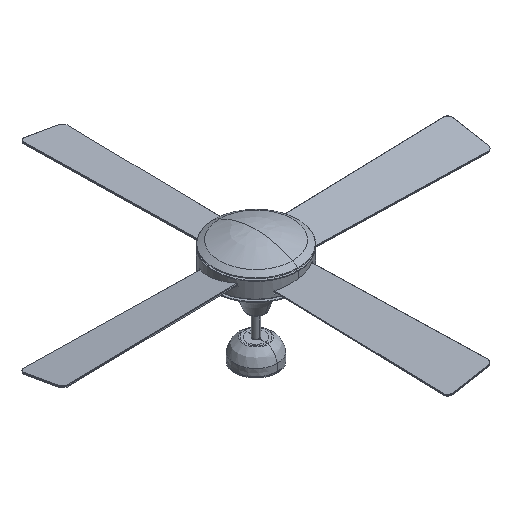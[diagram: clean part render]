
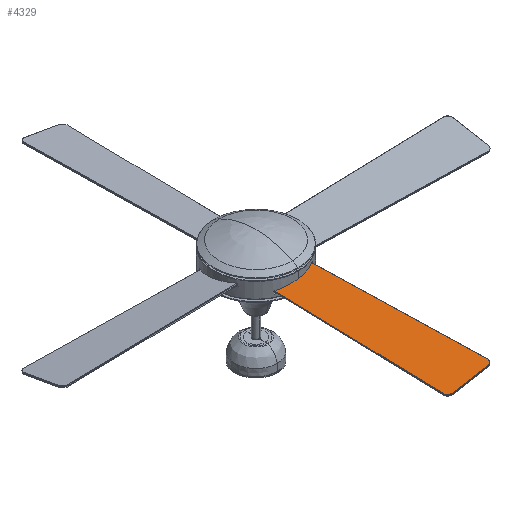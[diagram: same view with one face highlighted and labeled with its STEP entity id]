
A CAD part, isometric view. The second image highlights one B-rep face of the part: STEP entity #4329.
In plain terms, the highlighted planar face has unit normal (-0.174, 0, 0.985).
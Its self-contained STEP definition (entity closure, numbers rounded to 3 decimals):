
#283=PLANE('',#4656);
#461=FACE_OUTER_BOUND('',#725,.T.);
#725=EDGE_LOOP('',(#3146,#3147,#3148,#3149,#3150,#3151,#3152,#3153));
#1030=LINE('',#6542,#1343);
#1034=LINE('',#6554,#1347);
#1038=LINE('',#6566,#1351);
#1042=LINE('',#6577,#1355);
#1343=VECTOR('',#5294,304.8);
#1347=VECTOR('',#5306,304.8);
#1351=VECTOR('',#5318,304.8);
#1355=VECTOR('',#5330,304.8);
#1614=CIRCLE('',#4640,15.62);
#1616=CIRCLE('',#4644,15.62);
#1618=CIRCLE('',#4648,8.198);
#1620=CIRCLE('',#4652,8.198);
#1856=VERTEX_POINT('',#6532);
#1857=VERTEX_POINT('',#6533);
#1860=VERTEX_POINT('',#6541);
#1862=VERTEX_POINT('',#6547);
#1864=VERTEX_POINT('',#6553);
#1866=VERTEX_POINT('',#6559);
#1868=VERTEX_POINT('',#6565);
#1870=VERTEX_POINT('',#6571);
#2321=EDGE_CURVE('',#1856,#1857,#1614,.T.);
#2325=EDGE_CURVE('',#1860,#1856,#1030,.T.);
#2328=EDGE_CURVE('',#1862,#1860,#1616,.T.);
#2331=EDGE_CURVE('',#1864,#1862,#1034,.T.);
#2334=EDGE_CURVE('',#1866,#1864,#1618,.T.);
#2337=EDGE_CURVE('',#1868,#1866,#1038,.T.);
#2340=EDGE_CURVE('',#1870,#1868,#1620,.T.);
#2343=EDGE_CURVE('',#1857,#1870,#1042,.T.);
#3146=ORIENTED_EDGE('',*,*,#2343,.T.);
#3147=ORIENTED_EDGE('',*,*,#2340,.T.);
#3148=ORIENTED_EDGE('',*,*,#2337,.T.);
#3149=ORIENTED_EDGE('',*,*,#2334,.T.);
#3150=ORIENTED_EDGE('',*,*,#2331,.T.);
#3151=ORIENTED_EDGE('',*,*,#2328,.T.);
#3152=ORIENTED_EDGE('',*,*,#2325,.T.);
#3153=ORIENTED_EDGE('',*,*,#2321,.T.);
#4329=ADVANCED_FACE('',(#461),#283,.T.);
#4640=AXIS2_PLACEMENT_3D('',#6534,#5286,#5287);
#4644=AXIS2_PLACEMENT_3D('',#6548,#5299,#5300);
#4648=AXIS2_PLACEMENT_3D('',#6560,#5311,#5312);
#4652=AXIS2_PLACEMENT_3D('',#6572,#5323,#5324);
#4656=AXIS2_PLACEMENT_3D('',#6580,#5334,#5335);
#5286=DIRECTION('center_axis',(-0.174,0.,0.985));
#5287=DIRECTION('ref_axis',(-0.985,0.,-0.174));
#5294=DIRECTION('',(0.985,0.,0.174));
#5299=DIRECTION('center_axis',(-0.174,0.,0.985));
#5300=DIRECTION('ref_axis',(0.985,0.,0.174));
#5306=DIRECTION('',(-0.023,-1.,-0.004));
#5311=DIRECTION('center_axis',(-0.174,0.,0.985));
#5312=DIRECTION('ref_axis',(0.985,0.,0.174));
#5318=DIRECTION('',(-0.985,0.,-0.174));
#5323=DIRECTION('center_axis',(-0.174,0.,0.985));
#5324=DIRECTION('ref_axis',(-0.985,0.,-0.174));
#5330=DIRECTION('',(-0.023,1.,-0.004));
#5334=DIRECTION('center_axis',(-0.174,0.,0.985));
#5335=DIRECTION('ref_axis',(-0.023,1.,-0.004));
#6532=CARTESIAN_POINT('',(52.339,-659.993,290.505));
#6533=CARTESIAN_POINT('',(67.717,-644.002,293.216));
#6534=CARTESIAN_POINT('Origin',(52.339,-644.373,290.505));
#6541=CARTESIAN_POINT('',(-53.207,-659.993,271.894));
#6542=CARTESIAN_POINT('',(-53.207,-659.993,271.894));
#6547=CARTESIAN_POINT('',(-68.585,-644.009,269.182));
#6548=CARTESIAN_POINT('Origin',(-53.207,-644.373,271.894));
#6553=CARTESIAN_POINT('',(-56.357,-111.,271.339));
#6554=CARTESIAN_POINT('',(-56.357,-111.,271.339));
#6559=CARTESIAN_POINT('',(-48.285,-102.993,272.762));
#6560=CARTESIAN_POINT('Origin',(-48.285,-111.191,272.762));
#6565=CARTESIAN_POINT('',(47.186,-102.993,289.596));
#6566=CARTESIAN_POINT('',(47.186,-102.993,289.596));
#6571=CARTESIAN_POINT('',(55.258,-110.997,291.019));
#6572=CARTESIAN_POINT('Origin',(47.186,-111.191,289.596));
#6577=CARTESIAN_POINT('',(67.717,-644.002,293.216));
#6580=CARTESIAN_POINT('Origin',(55.252,-110.736,291.018));
